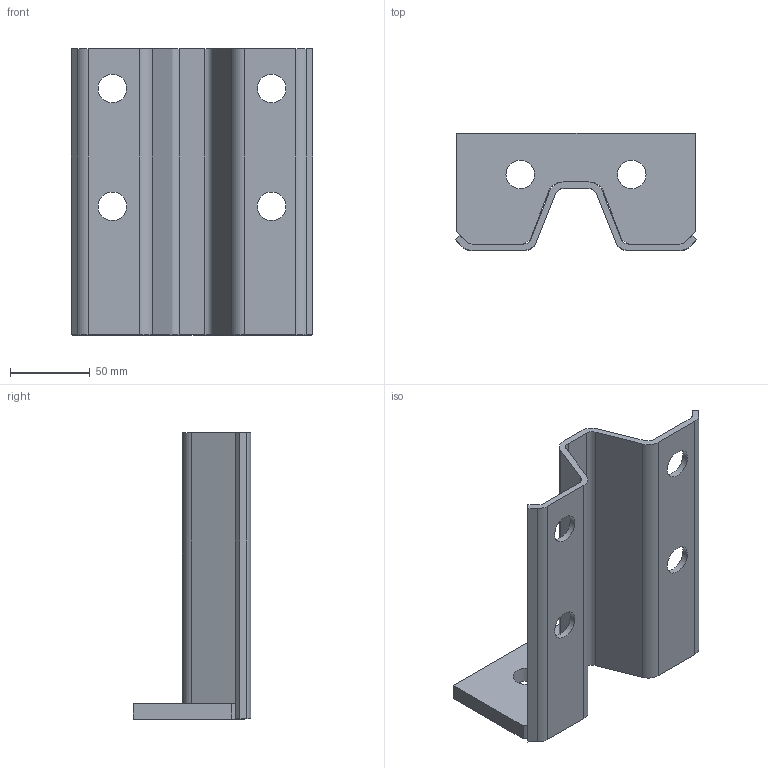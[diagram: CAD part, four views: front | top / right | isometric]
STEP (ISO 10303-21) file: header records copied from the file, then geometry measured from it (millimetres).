
FILE_DESCRIPTION(/* description */ (''),/* implementation_level */ '2;1');
FILE_NAME(/* name */ 'B225W70.stp',/* time_stamp */ '2023-07-03T11:12:05+02:00',/* author */ ('woriedl'),/* organization */ (''),/* preprocessor_version */ 'ST-DEVELOPER v19.2',/* originating_system */ 'AutoCAD Mechanical',/* authorisation */ '');
FILE_SCHEMA (('AUTOMOTIVE_DESIGN { 1 0 10303 214 3 1 1 }'));
Length unit declared in the file: centimetre
Products named in the file (1): Product
Bounding box: 151.72 x 74 x 180 mm (x, y, z)
Volume: 222531.3 mm3; surface area: 95245.4 mm2
Topology: 1 solids, 1 shells, 54 faces, 162 edges, 106 vertices
Faces by surface type: plane 30, cylinder 24
Full cylindrical faces by diameter (mm): 18 x6
Entity records: 1881 total; most frequent: ORIENTED_EDGE 324, CARTESIAN_POINT 323, DIRECTION 320, EDGE_CURVE 162, LINE 114, VECTOR 114, VERTEX_POINT 106, AXIS2_PLACEMENT_3D 103
